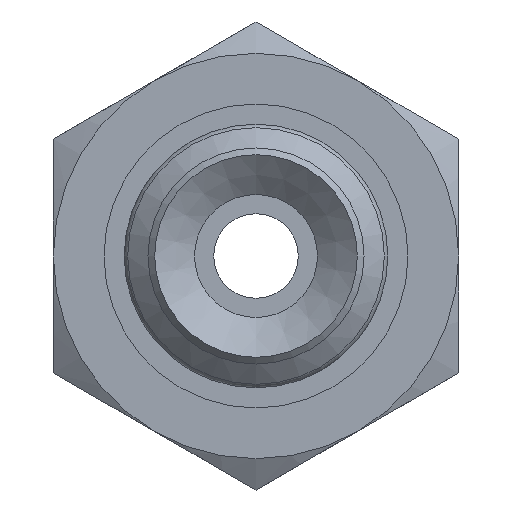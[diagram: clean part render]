
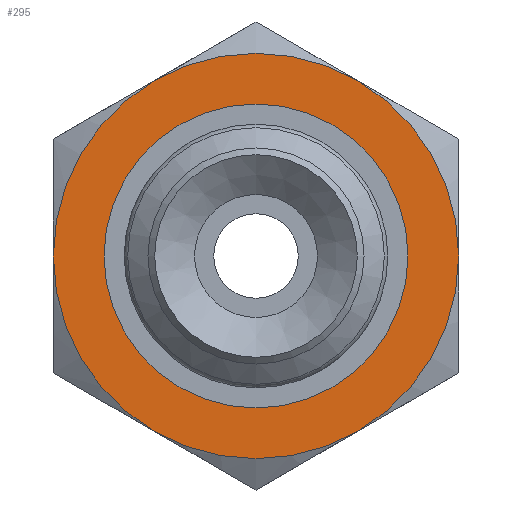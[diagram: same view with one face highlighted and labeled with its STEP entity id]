
A CAD part, front view. The second image highlights one B-rep face of the part: STEP entity #295.
In plain terms, the highlighted planar face has unit normal (0, -1, 0) as drawn and (-1, 0, 0) by its records, which use the part's own axes.
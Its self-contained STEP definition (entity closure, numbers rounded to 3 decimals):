
#295=ADVANCED_FACE('',(#376,#377),#378,.F.);
#376=FACE_BOUND('',#554,.T.);
#377=FACE_OUTER_BOUND('',#555,.T.);
#378=PLANE('',#556);
#554=EDGE_LOOP('',(#799));
#555=EDGE_LOOP('',(#800,#801,#802,#803,#804,#805));
#556=AXIS2_PLACEMENT_3D('',#806,#807,#808);
#799=ORIENTED_EDGE('',*,*,#1112,.T.);
#800=ORIENTED_EDGE('',*,*,#1104,.F.);
#801=ORIENTED_EDGE('',*,*,#1113,.F.);
#802=ORIENTED_EDGE('',*,*,#1091,.F.);
#803=ORIENTED_EDGE('',*,*,#1097,.F.);
#804=ORIENTED_EDGE('',*,*,#1076,.F.);
#805=ORIENTED_EDGE('',*,*,#1114,.F.);
#806=CARTESIAN_POINT('',(0.,0.0,0.0));
#807=DIRECTION('',(1.0,0.0,0.0));
#808=DIRECTION('',(0.0,1.0,0.0));
#1076=EDGE_CURVE('',#1165,#1162,#1167,.T.);
#1091=EDGE_CURVE('',#1192,#1193,#1194,.T.);
#1097=EDGE_CURVE('',#1162,#1192,#1202,.T.);
#1104=EDGE_CURVE('',#1211,#1213,#1214,.T.);
#1112=EDGE_CURVE('',#1224,#1224,#1225,.T.);
#1113=EDGE_CURVE('',#1193,#1211,#1226,.T.);
#1114=EDGE_CURVE('',#1213,#1165,#1227,.T.);
#1162=VERTEX_POINT('',#1320);
#1165=VERTEX_POINT('',#1333);
#1167=CIRCLE('',#1345,6.0);
#1192=VERTEX_POINT('',#1463);
#1193=VERTEX_POINT('',#1464);
#1194=CIRCLE('',#1465,6.0);
#1202=CIRCLE('',#1503,6.0);
#1211=VERTEX_POINT('',#1543);
#1213=VERTEX_POINT('',#1555);
#1214=CIRCLE('',#1556,6.0);
#1224=VERTEX_POINT('',#1608);
#1225=CIRCLE('',#1609,4.5);
#1226=CIRCLE('',#1610,6.0);
#1227=CIRCLE('',#1611,6.0);
#1320=CARTESIAN_POINT('',(0.,-5.196,3.0));
#1333=CARTESIAN_POINT('',(0.,0.0,6.0));
#1345=AXIS2_PLACEMENT_3D('',#1724,#1725,#1726);
#1463=CARTESIAN_POINT('',(0.,-5.196,-3.0));
#1464=CARTESIAN_POINT('',(0.,0.0,-6.0));
#1465=AXIS2_PLACEMENT_3D('',#1736,#1737,#1738);
#1503=AXIS2_PLACEMENT_3D('',#1745,#1746,#1747);
#1543=CARTESIAN_POINT('',(0.,5.196,-3.0));
#1555=CARTESIAN_POINT('',(0.,5.196,3.0));
#1556=AXIS2_PLACEMENT_3D('',#1752,#1753,#1754);
#1608=CARTESIAN_POINT('',(0.,0.0,-4.5));
#1609=AXIS2_PLACEMENT_3D('',#1760,#1761,#1762);
#1610=AXIS2_PLACEMENT_3D('',#1763,#1764,#1765);
#1611=AXIS2_PLACEMENT_3D('',#1766,#1767,#1768);
#1724=CARTESIAN_POINT('',(0.,0.0,0.0));
#1725=DIRECTION('',(1.0,0.0,0.0));
#1726=DIRECTION('',(0.0,0.0,-1.0));
#1736=CARTESIAN_POINT('',(0.,0.0,0.0));
#1737=DIRECTION('',(1.0,0.0,0.0));
#1738=DIRECTION('',(0.0,0.0,-1.0));
#1745=CARTESIAN_POINT('',(0.,0.0,0.0));
#1746=DIRECTION('',(1.0,0.0,0.0));
#1747=DIRECTION('',(0.0,0.0,-1.0));
#1752=CARTESIAN_POINT('',(0.,0.0,0.0));
#1753=DIRECTION('',(1.0,0.0,0.0));
#1754=DIRECTION('',(0.0,0.0,-1.0));
#1760=CARTESIAN_POINT('',(0.,0.0,0.0));
#1761=DIRECTION('',(1.0,0.0,0.0));
#1762=DIRECTION('',(0.0,0.0,-1.0));
#1763=CARTESIAN_POINT('',(0.,0.0,0.0));
#1764=DIRECTION('',(1.0,0.0,0.0));
#1765=DIRECTION('',(0.0,0.0,-1.0));
#1766=CARTESIAN_POINT('',(0.,0.0,0.0));
#1767=DIRECTION('',(1.0,0.0,0.0));
#1768=DIRECTION('',(0.0,0.0,-1.0));
